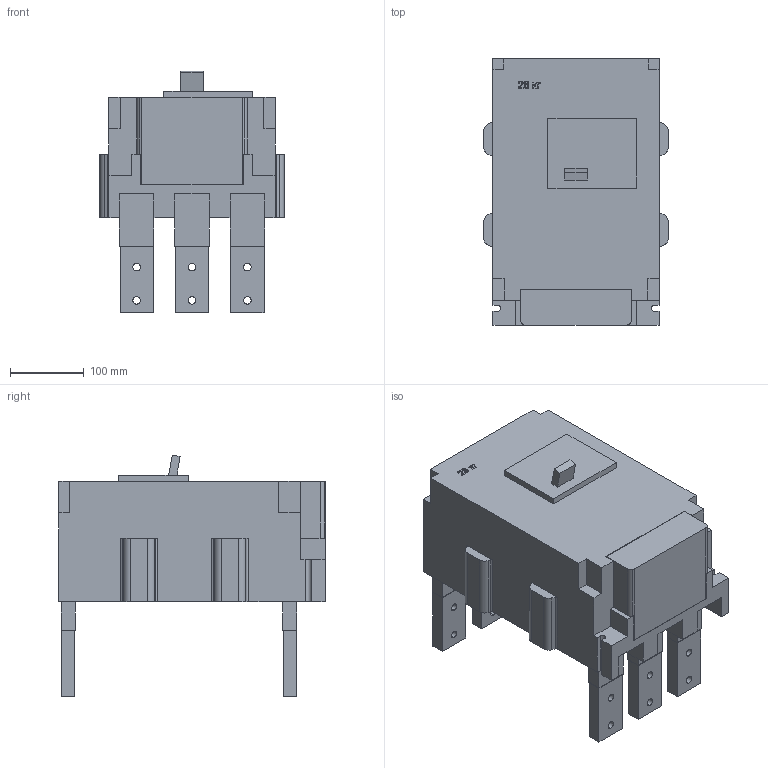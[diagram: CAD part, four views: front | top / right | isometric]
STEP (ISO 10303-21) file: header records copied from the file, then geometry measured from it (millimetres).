
FILE_DESCRIPTION (( 'STEP AP214' ), '1' );
FILE_NAME ('ÂÀ53(55)-41 çàäíåå ïðèñîåäèíåíèå.STEP', '2023-02-13T06:58:08', ( 'user' ), ( '' ), 'SwSTEP 2.0', 'SolidWorks 2018', '' );
FILE_SCHEMA (( 'AUTOMOTIVE_DESIGN' ));
Length unit declared in the file: millimetre
Products named in the file (1): ÂÀ53(55)-41 çàäíåå ïðèñîåäèíåíèå
Bounding box: 250 x 361.2 x 327.64 mm (x, y, z)
Volume: 13632503.8 mm3; surface area: 556500.8 mm2
Topology: 5 solids, 5 shells, 205 faces, 581 edges, 405 vertices
Faces by surface type: plane 155, cylinder 46, bspline 4
Entity records: 7255 total; most frequent: CARTESIAN_POINT 1724, ORIENTED_EDGE 1162, DIRECTION 1035, EDGE_CURVE 581, VECTOR 447, LINE 447, VERTEX_POINT 405, AXIS2_PLACEMENT_3D 294
